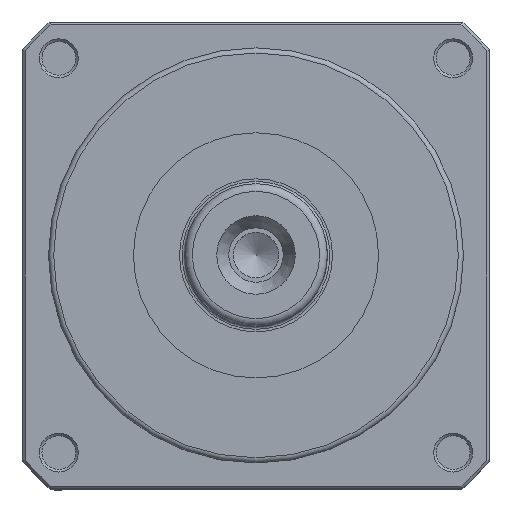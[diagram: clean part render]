
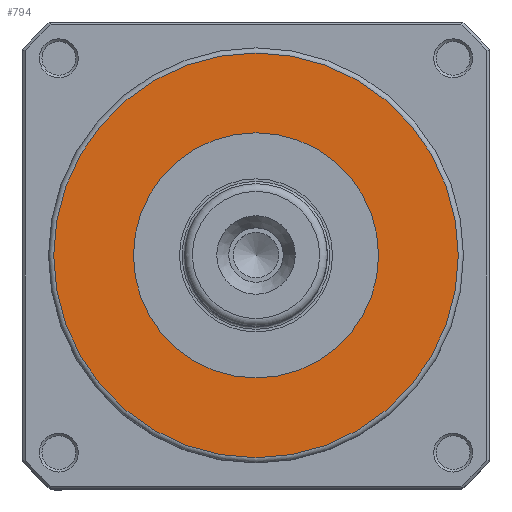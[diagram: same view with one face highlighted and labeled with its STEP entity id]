
A CAD part, top view. The second image highlights one B-rep face of the part: STEP entity #794.
In plain terms, the highlighted planar face has unit normal (0, 0, 1).
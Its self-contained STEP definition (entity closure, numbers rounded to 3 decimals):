
#304=PLANE('',#7134);
#794=ADVANCED_FACE('',(#2452,#2453),#304,.T.);
#1405=CIRCLE('',#7132,47.25);
#1406=CIRCLE('',#7133,78.);
#2452=FACE_BOUND('',#2878,.T.);
#2453=FACE_BOUND('',#2879,.T.);
#2878=EDGE_LOOP('',(#3776));
#2879=EDGE_LOOP('',(#3777));
#3776=ORIENTED_EDGE('',*,*,#6127,.F.);
#3777=ORIENTED_EDGE('',*,*,#6128,.T.);
#5432=VERTEX_POINT('',#10378);
#5433=VERTEX_POINT('',#10380);
#6127=EDGE_CURVE('',#5432,#5432,#1405,.T.);
#6128=EDGE_CURVE('',#5433,#5433,#1406,.T.);
#7132=AXIS2_PLACEMENT_3D('',#10377,#8256,#8257);
#7133=AXIS2_PLACEMENT_3D('',#10379,#8258,#8259);
#7134=AXIS2_PLACEMENT_3D('',#10381,#8260,#8261);
#8256=DIRECTION('',(0.,0.,1.));
#8257=DIRECTION('',(1.,0.,0.));
#8258=DIRECTION('',(0.,0.,1.));
#8259=DIRECTION('',(1.,0.,0.));
#8260=DIRECTION('',(0.,0.,1.));
#8261=DIRECTION('',(1.,0.,0.));
#10377=CARTESIAN_POINT('',(0.,0.,252.8));
#10378=CARTESIAN_POINT('',(47.25,0.,252.8));
#10379=CARTESIAN_POINT('',(0.,0.,252.8));
#10380=CARTESIAN_POINT('',(78.,0.,252.8));
#10381=CARTESIAN_POINT('',(0.,0.,252.8));
